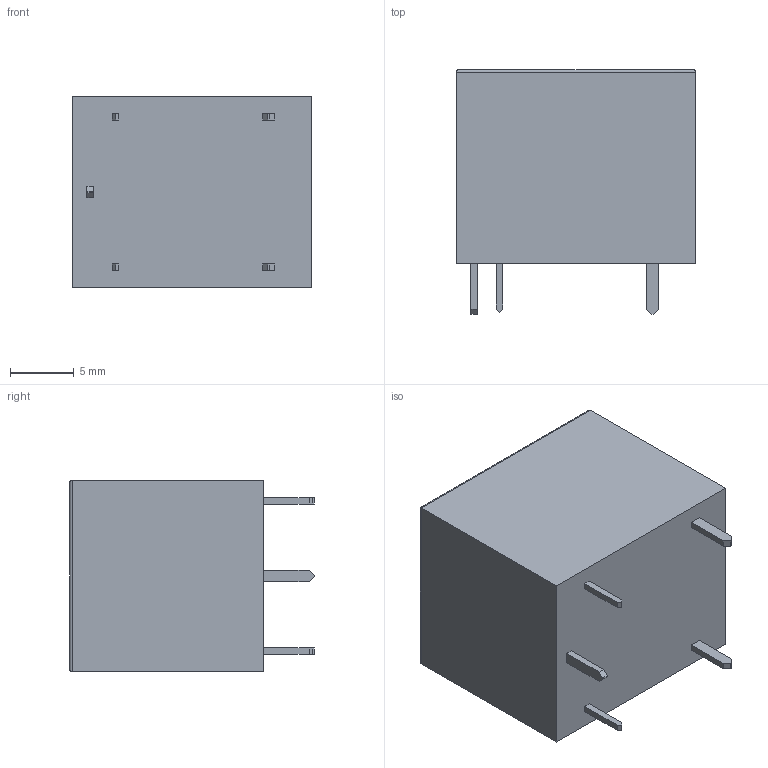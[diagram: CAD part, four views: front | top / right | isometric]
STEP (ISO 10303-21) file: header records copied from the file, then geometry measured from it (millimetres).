
FILE_DESCRIPTION(('FreeCAD Model'),'2;1');
FILE_NAME('C:/Users/Metaltex-99/Desktop/AZ.stp','2020-05-19T13:43:34',( 'Engenharia Metaltex'),('Metaltex'), 'Open CASCADE STEP processor 7.3','FreeCAD','Unknown');
FILE_SCHEMA(('AUTOMOTIVE_DESIGN { 1 0 10303 214 1 1 1 1 }'));
Length unit declared in the file: millimetre
Products named in the file (1): AZ
Bounding box: 18.8 x 19.2 x 15 mm (x, y, z)
Volume: 4292.8 mm3; surface area: 1632.5 mm2
Topology: 1 solids, 1 shells, 43 faces, 104 edges, 68 vertices
Faces by surface type: plane 39, cylinder 4
Entity records: 2775 total; most frequent: CARTESIAN_POINT 628, DIRECTION 388, LINE 300, VECTOR 300, ORIENTED_EDGE 208, PCURVE 208, DEFINITIONAL_REPRESENTATION 208, EDGE_CURVE 104
